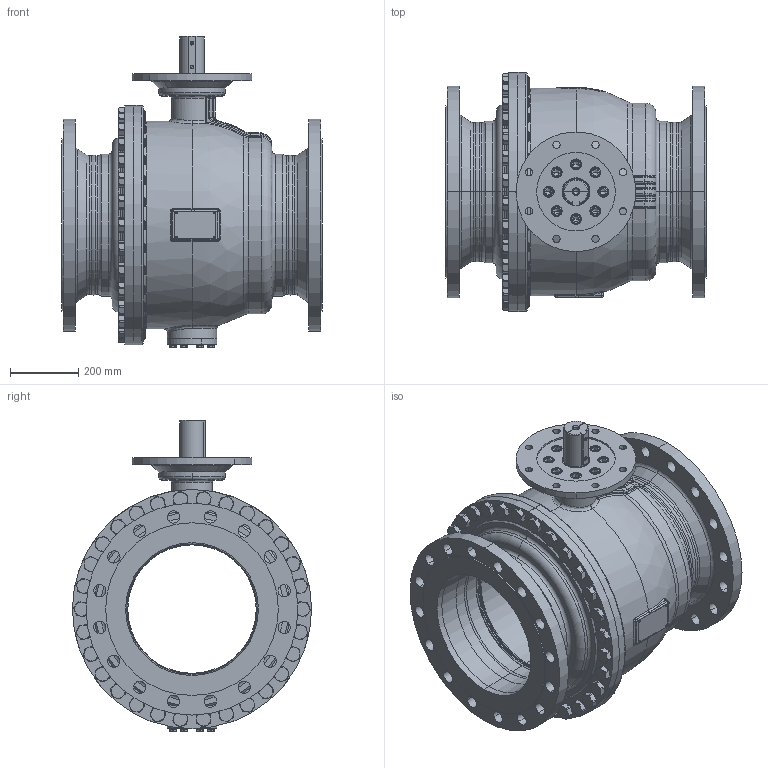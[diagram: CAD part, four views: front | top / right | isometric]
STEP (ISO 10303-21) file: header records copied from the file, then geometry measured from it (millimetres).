
FILE_DESCRIPTION((''),'2;1');
FILE_NAME('KHI-F_400_PN025-F30-P_SW0001','2026-02-05T16:26:24',('fischerkl'),('KLINGER'),'CREO PARAMETRIC BY PTC INC, 2023014','CREO PARAMETRIC BY PTC INC, 2023014','');
FILE_SCHEMA(('CONFIG_CONTROL_DESIGN'));
Products named in the file (1): KHI-F_400_PN025-F30-P_SW0001
Bounding box: 762 x 700 x 911.3 mm (x, y, z)
Volume: 58305662.7 mm3; surface area: 7027783.8 mm2
Topology: 1 solids, 4 shells, 3581 faces, 9022 edges, 5636 vertices
Faces by surface type: plane 1771, cylinder 861, cone 508, torus 311, bspline 99, sphere 31
Entity records: 153316 total; most frequent: CARTESIAN_POINT 68071, ORIENTED_EDGE 17992, DIRECTION 17656, EDGE_CURVE 8996, AXIS2_PLACEMENT_3D 6778, VERTEX_POINT 5636, VECTOR 4100, LINE 4100
